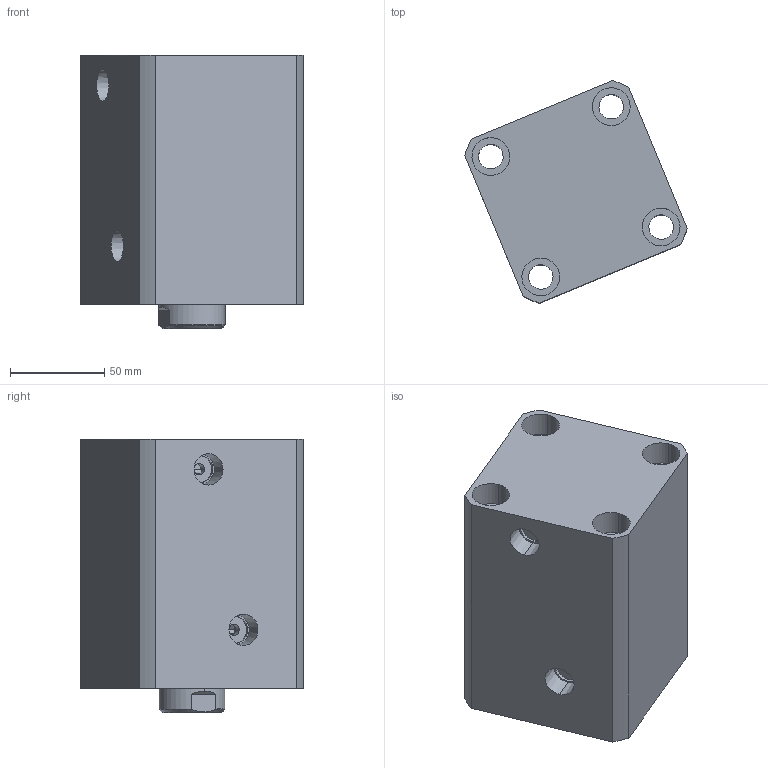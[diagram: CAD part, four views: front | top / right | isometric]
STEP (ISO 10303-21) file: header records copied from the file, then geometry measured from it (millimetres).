
FILE_DESCRIPTION (( 'STEP AP214' ), '1' );
FILE_NAME ('chtb-sd63x65n_asm.STEP', '2018-05-09T02:49:48', ( 'Windows' ), ( 'Microsoft' ), 'SwSTEP 2.0', 'SolidWorks 2015', '' );
FILE_SCHEMA (( 'AUTOMOTIVE_DESIGN' ));
Length unit declared in the file: millimetre
Products named in the file (4): CHTB-63QG; chtb-sd63x65n_asm; CHTB63X65NHSG; CHTB63X65NBT
Assembly tree (3 placements, depth 2):
  chtb-sd63x65n_asm
    CHTB-63QG
    CHTB63X65NBT
    CHTB63X65NHSG
Bounding box: 117.81 x 117.81 x 145 mm (x, y, z)
Volume: 924402.9 mm3; surface area: 157004.6 mm2
Topology: 3 solids, 3 shells, 165 faces, 465 edges, 318 vertices
Faces by surface type: cylinder 101, plane 33, bspline 12, cone 12, torus 7
Entity records: 17638 total; most frequent: CARTESIAN_POINT 13505, ORIENTED_EDGE 918, DIRECTION 719, EDGE_CURVE 459, VERTEX_POINT 318, AXIS2_PLACEMENT_3D 291, EDGE_LOOP 197, ADVANCED_FACE 165
